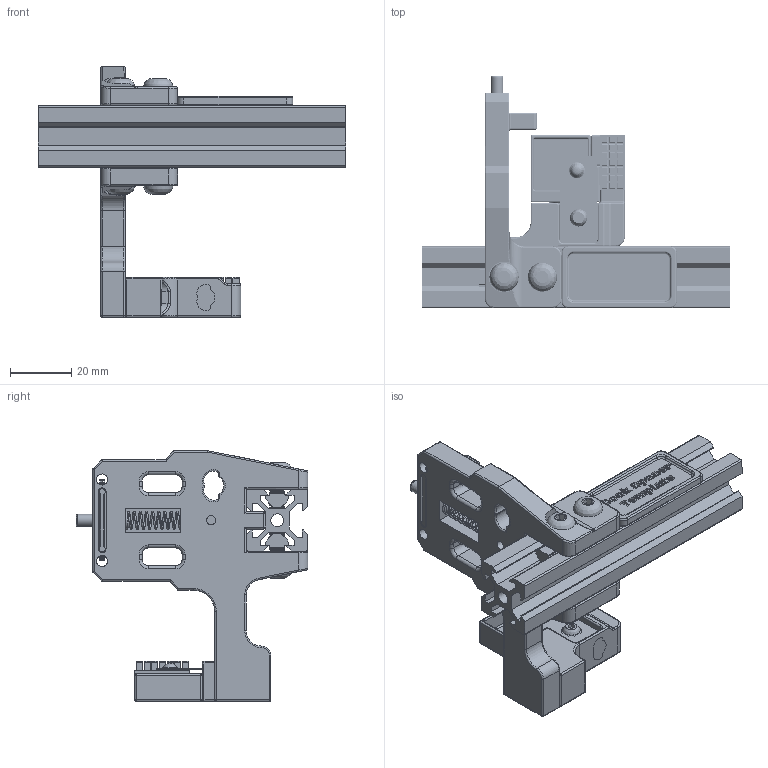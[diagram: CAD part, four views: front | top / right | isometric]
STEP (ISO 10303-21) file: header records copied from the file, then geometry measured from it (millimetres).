
FILE_DESCRIPTION(/* description */ (''),/* implementation_level */ '2;1');
FILE_NAME(/* name */ 'Lineux One r2.1 Dock v35.step',/* time_stamp */ '2025-07-24T21:14:45+07:00',/* author */ (''),/* organization */ (''),/* preprocessor_version */ 'ST-DEVELOPER v20.1',/* originating_system */ 'Autodesk Translation Framework v14.10.0.0',/* authorisation */ '');
FILE_SCHEMA (('AUTOMOTIVE_DESIGN { 1 0 10303 214 3 1 1 }'));
Products named in the file (38): Lineux One r2.1 Dock; Nozzle Blocker; Drip Tray; 6x3mm magnet (2); 6x3mm magnet (3); (a)_drip_tray; Nozzle Blocker Bambulab Brush; Bambulab A1 Brush; nozzle_blocker_mount (1); 6x3mm magnet (5); m3 washer (1); AA battery terminal; m3 x 10mm bhcs (4); m3 hex nut (3); 6x3mm magnet (4); m3 x 10mm bhcs (2); (a)_logo_nb; Dock; dock_1; Hardware (1); m3 x 6mm bhcs (1); 2020 Drop-in T-nut, M5; 2020 Drop-in T-nut, M5_1; m5 x 12mm bhcs (1); m5 x 12mm bhcs (3); Wire; m5 x 12mm bhcs; m5 x 12mm bhcs (2); spring OD6 ID5 20mm; m3 x OD4 16mm threaded dowel pin; m3 heat insert; 6 x 3mm n52 magnet; 8 x 5mm n52 magnet; 8 x 5mm n52 magnet (1); 2020 Drop-in T-nut, M5_2; 2020 Drop-in T-nut, M5_3; 2020 Extrusion; dock_spacer_template
Assembly tree (37 placements, depth 4):
  Lineux One r2.1 Dock
    Nozzle Blocker
      Drip Tray
        6x3mm magnet (2)
        6x3mm magnet (3)
        (a)_drip_tray
      Nozzle Blocker Bambulab Brush
        Bambulab A1 Brush
        nozzle_blocker_mount (1)
        6x3mm magnet (5)
        m3 washer (1)
        AA battery terminal
        m3 x 10mm bhcs (4)
        m3 hex nut (3)
        6x3mm magnet (4)
        m3 x 10mm bhcs (2)
        (a)_logo_nb
    Dock
      dock_1
      Hardware (1)
        m3 x 6mm bhcs (1)
        2020 Drop-in T-nut, M5
        2020 Drop-in T-nut, M5_1
        m5 x 12mm bhcs (1)
        m5 x 12mm bhcs (3)
        Wire
        m5 x 12mm bhcs
        m5 x 12mm bhcs (2)
        spring OD6 ID5 20mm
        m3 x OD4 16mm threaded dowel pin
        m3 heat insert
        6 x 3mm n52 magnet
        8 x 5mm n52 magnet
        8 x 5mm n52 magnet (1)
        2020 Drop-in T-nut, M5_2
        2020 Drop-in T-nut, M5_3
    2020 Extrusion
    dock_spacer_template
Bounding box: 100 x 75.5 x 81.66 mm (x, y, z)
Volume: 57660.5 mm3; surface area: 45217.6 mm2
Topology: 36 solids, 36 shells, 1957 faces, 5008 edges, 3184 vertices
Faces by surface type: plane 861, cylinder 783, bspline 144, torus 96, sphere 41, cone 32
Full cylindrical faces by diameter (mm): 0.3 x14, 2.356 x52, 2.5 x5, 2.529 x11, 2.729 x1, 2.927 x49, 3 x4, 3.086 x5, 3.4 x2, 3.6 x2, 3.99 x16, 4 x1, 4.145 x2, 4.2 x2, 4.7 x1, 4.901 x36, 5.12 x12, 5.5 x4, 5.7 x3, 6 x5, 6.1 x5, 6.7 x1, 7 x1, 8 x2, 8.1 x2, 10 x2
Entity records: 115858 total; most frequent: CARTESIAN_POINT 69254, ORIENTED_EDGE 9954, DIRECTION 8664, EDGE_CURVE 4977, VERTEX_POINT 3184, AXIS2_PLACEMENT_3D 2973, LINE 2718, VECTOR 2718
